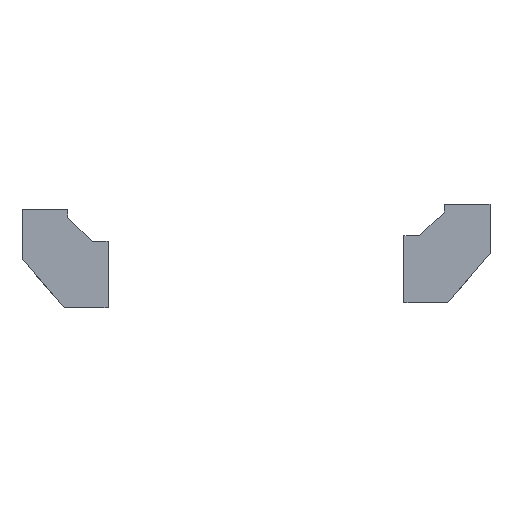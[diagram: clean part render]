
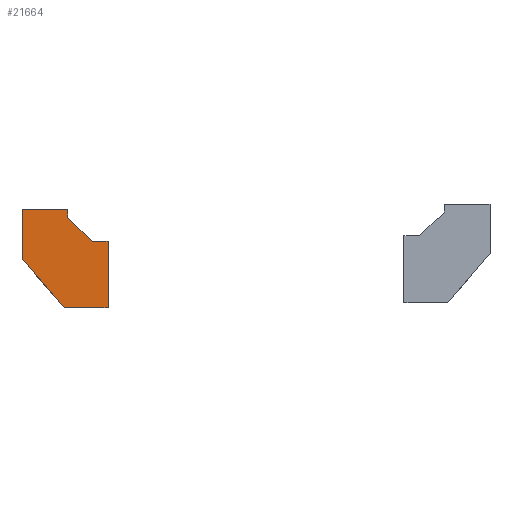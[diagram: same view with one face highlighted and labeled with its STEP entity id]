
A CAD part, left-side view. The second image highlights one B-rep face of the part: STEP entity #21664.
In plain terms, the highlighted planar face has unit normal (-1, 0, 0).
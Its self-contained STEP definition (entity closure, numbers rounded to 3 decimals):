
#102 = VECTOR ( 'NONE', #320, 1000. ) ;
#320 = DIRECTION ( 'NONE',  ( 0., 0., -1. ) ) ;
#337 = VECTOR ( 'NONE', #8800, 1000. ) ;
#348 = VECTOR ( 'NONE', #23325, 1000. ) ;
#1235 = DIRECTION ( 'NONE',  ( 0., 1., 0. ) ) ;
#1539 = CARTESIAN_POINT ( 'NONE',  ( -100., 133.2, 85.75 ) ) ;
#1685 = CARTESIAN_POINT ( 'NONE',  ( -100., 84.2, 29.75 ) ) ;
#1730 = CARTESIAN_POINT ( 'NONE',  ( -100., 93.2, 67.75 ) ) ;
#2404 = LINE ( 'NONE', #10893, #102 ) ;
#2898 = DIRECTION ( 'NONE',  ( 0., 0., 1. ) ) ;
#2929 = VERTEX_POINT ( 'NONE', #21145 ) ;
#2991 = FACE_OUTER_BOUND ( 'NONE', #14880, .T. ) ;
#3070 = LINE ( 'NONE', #6762, #26805 ) ;
#3106 = EDGE_CURVE ( 'NONE', #19389, #19787, #13506, .T. ) ;
#3177 = DIRECTION ( 'NONE',  ( 0., -1., 0. ) ) ;
#3398 = ORIENTED_EDGE ( 'NONE', *, *, #9068, .F. ) ;
#4614 = EDGE_CURVE ( 'NONE', #13249, #13616, #13036, .T. ) ;
#5359 = VERTEX_POINT ( 'NONE', #25365 ) ;
#5601 = LINE ( 'NONE', #6519, #348 ) ;
#6519 = CARTESIAN_POINT ( 'NONE',  ( -100., 84.2, 67.75 ) ) ;
#6762 = CARTESIAN_POINT ( 'NONE',  ( -100., 109.2, 29.75 ) ) ;
#6877 = ORIENTED_EDGE ( 'NONE', *, *, #10027, .F. ) ;
#7114 = AXIS2_PLACEMENT_3D ( 'NONE', #25974, #19929, #19582 ) ;
#8282 = EDGE_CURVE ( 'NONE', #26767, #9001, #5601, .T. ) ;
#8647 = ORIENTED_EDGE ( 'NONE', *, *, #3106, .F. ) ;
#8800 = DIRECTION ( 'NONE',  ( 0., -1., 0. ) ) ;
#9001 = VERTEX_POINT ( 'NONE', #1685 ) ;
#9068 = EDGE_CURVE ( 'NONE', #2929, #19389, #13420, .T. ) ;
#9373 = ORIENTED_EDGE ( 'NONE', *, *, #8282, .F. ) ;
#9422 = CARTESIAN_POINT ( 'NONE',  ( -100., 93.2, 67.75 ) ) ;
#10027 = EDGE_CURVE ( 'NONE', #19787, #13249, #2404, .T. ) ;
#10466 = VECTOR ( 'NONE', #2898, 1000. ) ;
#10893 = CARTESIAN_POINT ( 'NONE',  ( -100., 107.2, 85.75 ) ) ;
#11310 = EDGE_CURVE ( 'NONE', #13616, #26767, #26931, .T. ) ;
#13036 = LINE ( 'NONE', #20053, #15364 ) ;
#13249 = VERTEX_POINT ( 'NONE', #13789 ) ;
#13420 = LINE ( 'NONE', #17479, #10466 ) ;
#13506 = LINE ( 'NONE', #23672, #337 ) ;
#13616 = VERTEX_POINT ( 'NONE', #1730 ) ;
#13789 = CARTESIAN_POINT ( 'NONE',  ( -100., 107.2, 81.25 ) ) ;
#14751 = ORIENTED_EDGE ( 'NONE', *, *, #16483, .F. ) ;
#14880 = EDGE_LOOP ( 'NONE', ( #3398, #24292, #14751, #9373, #24517, #24523, #6877, #8647 ) ) ;
#15364 = VECTOR ( 'NONE', #26368, 1000. ) ;
#15804 = CARTESIAN_POINT ( 'NONE',  ( -100., 84.2, 29.75 ) ) ;
#16049 = CARTESIAN_POINT ( 'NONE',  ( -100., 107.2, 85.75 ) ) ;
#16483 = EDGE_CURVE ( 'NONE', #9001, #5359, #17614, .T. ) ;
#17479 = CARTESIAN_POINT ( 'NONE',  ( -100., 133.2, 57.75 ) ) ;
#17614 = LINE ( 'NONE', #15804, #18598 ) ;
#18598 = VECTOR ( 'NONE', #1235, 1000. ) ;
#19389 = VERTEX_POINT ( 'NONE', #1539 ) ;
#19582 = DIRECTION ( 'NONE',  ( 0., 0., -1. ) ) ;
#19753 = PLANE ( 'NONE',  #7114 ) ;
#19787 = VERTEX_POINT ( 'NONE', #16049 ) ;
#19929 = DIRECTION ( 'NONE',  ( 1., 0., 0. ) ) ;
#20053 = CARTESIAN_POINT ( 'NONE',  ( -100., 107.2, 81.25 ) ) ;
#21145 = CARTESIAN_POINT ( 'NONE',  ( -100., 133.2, 57.75 ) ) ;
#21651 = CARTESIAN_POINT ( 'NONE',  ( -100., 84.2, 67.75 ) ) ;
#21664 = ADVANCED_FACE ( 'NONE', ( #2991 ), #19753, .F. ) ;
#22028 = VECTOR ( 'NONE', #3177, 1000. ) ;
#23325 = DIRECTION ( 'NONE',  ( 0., 0., -1. ) ) ;
#23672 = CARTESIAN_POINT ( 'NONE',  ( -100., 133.2, 85.75 ) ) ;
#24292 = ORIENTED_EDGE ( 'NONE', *, *, #25390, .F. ) ;
#24517 = ORIENTED_EDGE ( 'NONE', *, *, #11310, .F. ) ;
#24523 = ORIENTED_EDGE ( 'NONE', *, *, #4614, .F. ) ;
#25365 = CARTESIAN_POINT ( 'NONE',  ( -100., 109.2, 29.75 ) ) ;
#25390 = EDGE_CURVE ( 'NONE', #5359, #2929, #3070, .T. ) ;
#25475 = DIRECTION ( 'NONE',  ( 0., 0.651, 0.759 ) ) ;
#25974 = CARTESIAN_POINT ( 'NONE',  ( -100., 133.2, 67.75 ) ) ;
#26368 = DIRECTION ( 'NONE',  ( 0., -0.72, -0.694 ) ) ;
#26767 = VERTEX_POINT ( 'NONE', #21651 ) ;
#26805 = VECTOR ( 'NONE', #25475, 1000. ) ;
#26931 = LINE ( 'NONE', #9422, #22028 ) ;
